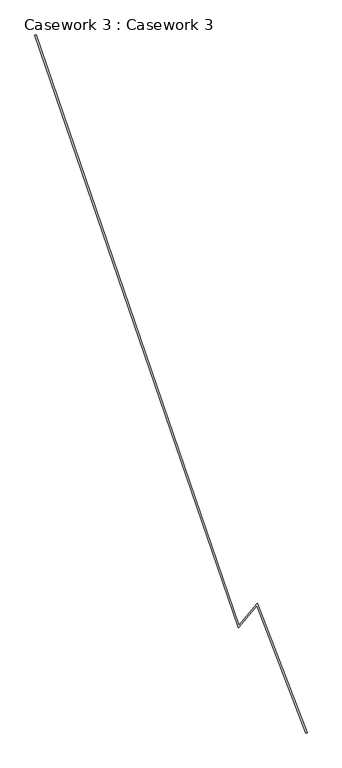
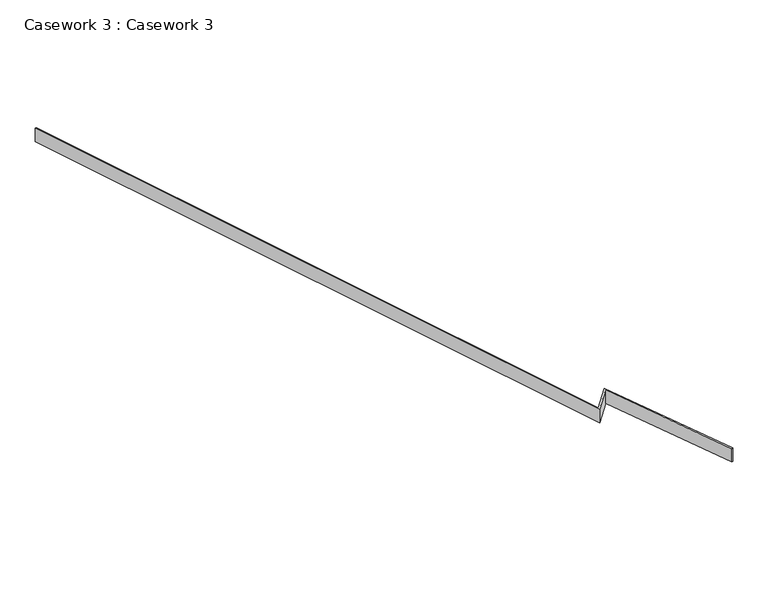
"""IFC4 building model written with IfcOpenShell, lengths in millimetres: furniture geometry, Casework 3 : Casework 3."""

from ifc_helpers import new_model, si_unit, frame, origin, place, context, project, spatial, polyline, outline, extrude, source, transform, mapped, element, save


def casework_3_casework_3_36dc1b48(model_context):
    return source(origin(), model_context, "Body", "SweptSolid", [
        extrude(outline(polyline([(-16523.1298662, 4764.7608493), (-16508.9470876, 4769.6443716), (-14243.2713921, -1810.3556284), (-14037.579357, -1565.2214066), (-13484.4283956, -3006.2289273), (-13498.432102, -3011.6044466), (-14042.4572427, -1594.3705017), (-14248.8225743, -1840.3071271), (-16523.1298662, 4764.7608493)])), frame((0.0, 0.0, -1330.0), z_axis=(0.0, 0.0, 1.0), x_axis=(1.0, 0.0, 0.0)), (0.0, 0.0, 1.0), 150.0),
    ])


if __name__ == "__main__":
    model = new_model("IFC4")
    model_context = context("Model", 3, world=origin())
    ifc_project = project(units=[si_unit("LENGTHUNIT", "METRE", prefix="MILLI")], contexts=[model_context])
    site = spatial("IfcSite", under=ifc_project)
    building = spatial("IfcBuilding", under=site)
    placement = place(None, origin())
    casework_3_casework_3_shape = casework_3_casework_3_36dc1b48(model_context)
    element("IfcFurniture", 1, ObjectType="Casework 3 : Casework 3", at=placement, inside=building, context=model_context, shape_type="MappedRepresentation", body=[
        mapped(casework_3_casework_3_shape, transform((0.0, 0.0, 0.0), x_axis=(1.0, 0.0, 0.0), y_axis=(0.0, 1.0, 0.0), z_axis=(0.0, 0.0, 1.0))),
    ])
    save(model, "model.ifc")
